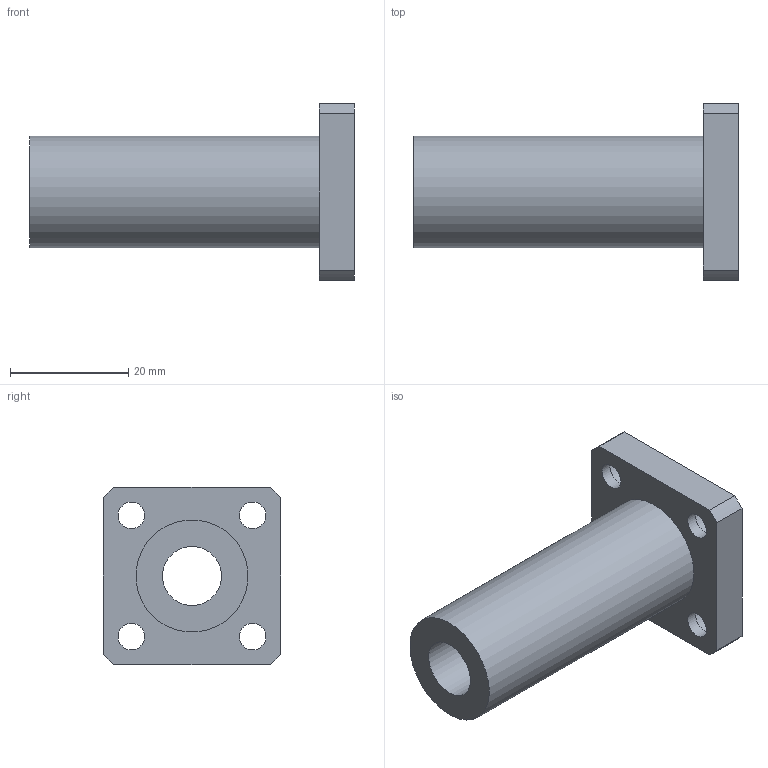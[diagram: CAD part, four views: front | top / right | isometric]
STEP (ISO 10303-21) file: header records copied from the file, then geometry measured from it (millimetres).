
FILE_DESCRIPTION(/* description */ (''),/* implementation_level */ '2;1');
FILE_NAME(/* name */ 'LMK10LUU',/* time_stamp */ '2019-07-09T15:48:15+02:00',/* author */ ('VĂ©gh MĂˇtĂ©'),/* organization */ ('Bearing Kft'),/* preprocessor_version */ 'ST-DEVELOPER v16.7',/* originating_system */ 'DEX',/* authorisation */ $);
FILE_SCHEMA (('AUTOMOTIVE_DESIGN {1 0 10303 214 3 1 1}'));
Length unit declared in the file: millimetre
Products named in the file (1): LMK10LUU
Bounding box: 55 x 30 x 30 mm (x, y, z)
Volume: 14090.7 mm3; surface area: 7358.2 mm2
Topology: 1 solids, 1 shells, 334 faces, 840 edges, 560 vertices
Faces by surface type: plane 257, bspline 60, cylinder 17
Full cylindrical faces by diameter (mm): 4.5 x4, 7.5 x4, 10 x1, 19 x1
Entity records: 12451 total; most frequent: CARTESIAN_POINT 4790, ORIENTED_EDGE 1654, DIRECTION 1291, EDGE_CURVE 827, LINE 673, VECTOR 673, VERTEX_POINT 560, EDGE_LOOP 409
